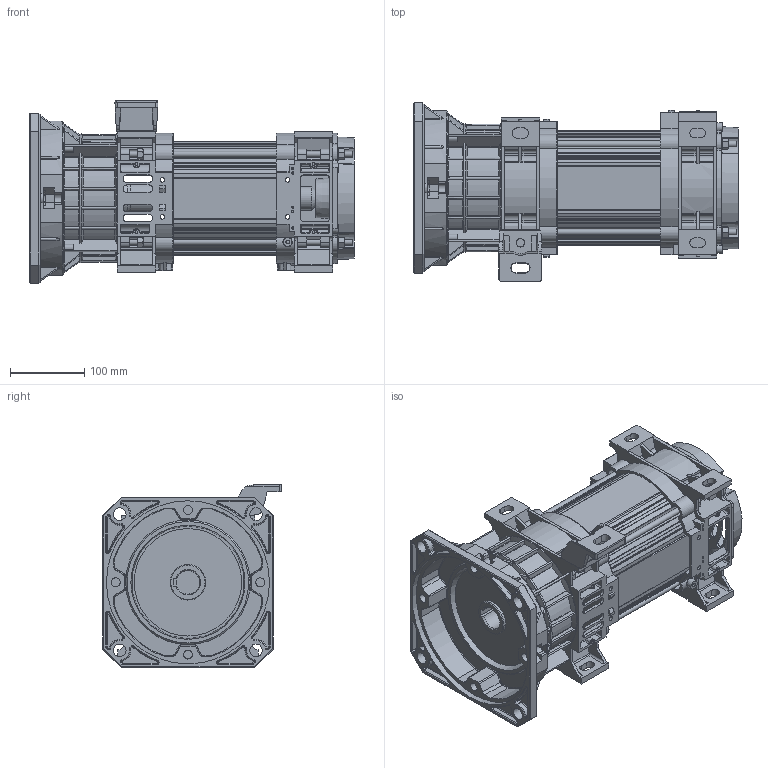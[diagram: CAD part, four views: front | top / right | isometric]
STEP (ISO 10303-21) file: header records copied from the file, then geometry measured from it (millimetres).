
FILE_DESCRIPTION(/* description */ ('Motore Tipo V46 FL220 F32-H160 SI Volano NO Piedi'),/* implementation_level */ '2;1');
FILE_NAME(/* name */ 'Y:\ServerTecnico\Mockup Motori x Sito Elmo\Mockup Tipo V46 Size 1 FL220 F32-H160 SI Volano.stp',/* time_stamp */ '2016-10-06T15:14:45+02:00',/* author */ ('aparmini'),/* organization */ (''),/* preprocessor_version */ 'ST-DEVELOPER v16.5',/* originating_system */ 'Autodesk Inventor 2017',/* authorisation */ '');
FILE_SCHEMA (('AUTOMOTIVE_DESIGN { 1 0 10303 214 3 1 1 }'));
Products named in the file (11): Mockup Tipo V46 Size 1 FL220 F32-H160 SI Volano; Mockup Statore Size 1 - F32-H160 SI Volano; TGS10; FA1VD220NA-01-07-2015; CA1VS-DSEMI 220 01-07-2015; SEMI FA1VD220A; Mockup CP1XD040N; SP1A42; TI08ML300; UNI 5587 - M8; DIN 125-2 - B 8,4
Assembly tree (23 placements, depth 3):
  Mockup Tipo V46 Size 1 FL220 F32-H160 SI Volano
    Mockup Statore Size 1 - F32-H160 SI Volano
    TGS10
    FA1VD220NA-01-07-2015
      CA1VS-DSEMI 220 01-07-2015
      SEMI FA1VD220A
    Mockup CP1XD040N
    SP1A42
    TI08ML300  x4
    UNI 5587 - M8  x8
    DIN 125-2 - B 8,4  x4
Bounding box: 438 x 241 x 247 mm (x, y, z)
Volume: 5948457.2 mm3; surface area: 1006887.9 mm2
Topology: 22 solids, 22 shells, 2945 faces, 7883 edges, 4991 vertices
Faces by surface type: plane 1177, cylinder 1078, cone 347, bspline 223, torus 104, sphere 16
Full cylindrical faces by diameter (mm): 3.2 x5, 4 x8, 4.917 x2, 5 x4, 6.2 x8, 6.647 x8, 8 x4, 8.4 x4, 10 x8, 12 x8, 16 x4, 17 x5, 21 x1, 32 x2, 40 x1, 48 x1, 50 x1, 82 x2, 145 x1, 220 x1
Entity records: 95149 total; most frequent: CARTESIAN_POINT 25255, ORIENTED_EDGE 14724, DIRECTION 14699, EDGE_CURVE 7350, AXIS2_PLACEMENT_3D 5431, VERTEX_POINT 4742, LINE 3837, VECTOR 3837
